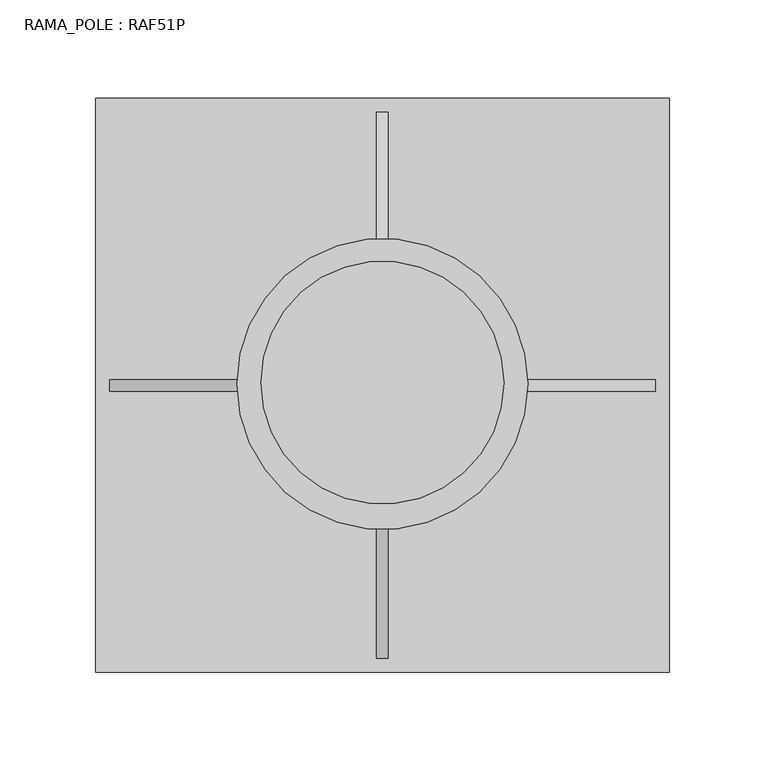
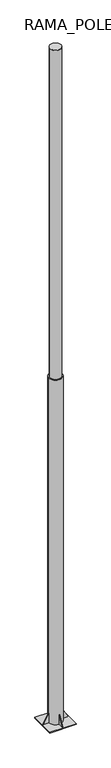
"""IFC4 building model written with IfcOpenShell, lengths in millimetres: light fixture geometry, RAMA_POLE : RAF51P."""

from ifc_helpers import new_model, si_unit, point, frame, origin, origin_2d, place, context, project, spatial, polyline, circle_curve, trimmed, segment, composite_curve, outline, extrude, source, transform, mapped, element, save


def rama_pole_raf51p_ffe0086f(model_context):
    return source(origin(), model_context, "Body", "SweptSolid", [
        extrude(outline(composite_curve([segment(trimmed(circle_curve(origin_2d(), 76.0), [point((-76.0, 0.0))], [point((76.0, 0.0))], False, "CARTESIAN"), True, "CONTINUOUS"), segment(trimmed(circle_curve(origin_2d(), 76.0), [point((76.0, 0.0))], [point((-76.0, 0.0))], False, "CARTESIAN"), True, "CONTINUOUS")], self_intersect=False)), frame((0.0, 0.0, -190.0), z_axis=(0.0, 0.0, 1.0), x_axis=(1.0, 0.0, 0.0)), (0.0, 0.0, 1.0), 4190.0),
        extrude(outline(polyline([(57.15, -40.0), (142.65, -190.0), (79.9181562, -190.0), (57.15, -150.0558663), (57.15, -40.0)])), frame((-3.0, 0.0, 0.0), z_axis=(1.0, 0.0, 0.0), x_axis=(0.0, 1.0, 0.0)), (0.0, 0.0, 1.0), 6.0),
        extrude(outline(polyline([(-57.15, -40.0), (-57.15, -150.0558663), (-79.9181562, -190.0), (-142.65, -190.0), (-57.15, -40.0)])), frame((-3.0, 0.0, 0.0), z_axis=(1.0, 0.0, 0.0), x_axis=(0.0, 1.0, 0.0)), (0.0, 0.0, 1.0), 6.0),
        extrude(outline(polyline([(-40.0, -57.15), (-190.0, -142.65), (-190.0, -79.9181562), (-150.0558663, -57.15), (-40.0, -57.15)])), frame((0.0, -3.0, 0.0), z_axis=(0.0, 1.0, 0.0), x_axis=(0.0, 0.0, 1.0)), (0.0, 0.0, 1.0), 6.0),
        extrude(outline(polyline([(-40.0, 57.15), (-150.0558663, 57.15), (-190.0, 79.9181562), (-190.0, 142.65), (-40.0, 57.15)])), frame((0.0, -3.0, 0.0), z_axis=(0.0, 1.0, 0.0), x_axis=(0.0, 0.0, 1.0)), (0.0, 0.0, 1.0), 6.0),
        extrude(outline(composite_curve([segment(trimmed(circle_curve(origin_2d(), 63.5), [point((-63.5, 0.0))], [point((63.5, 0.0))], False, "CARTESIAN"), True, "CONTINUOUS"), segment(trimmed(circle_curve(origin_2d(), 63.5), [point((63.5, 0.0))], [point((-63.5, 0.0))], False, "CARTESIAN"), True, "CONTINUOUS")], self_intersect=False)), frame((0.0, 0.0, -190.0), z_axis=(0.0, 0.0, 1.0), x_axis=(1.0, 0.0, 0.0)), (0.0, 0.0, 1.0), 8190.0),
        extrude(outline(polyline([(150.0, 150.0), (150.0, -150.0), (-150.0, -150.0), (-150.0, 150.0), (150.0, 150.0)])), frame((0.0, 0.0, -200.0), z_axis=(0.0, 0.0, 1.0), x_axis=(1.0, 0.0, 0.0)), (0.0, 0.0, 1.0), 10.0),
    ])


if __name__ == "__main__":
    model = new_model("IFC4")
    model_context = context("Model", 3, world=origin())
    ifc_project = project(units=[si_unit("LENGTHUNIT", "METRE", prefix="MILLI")], contexts=[model_context])
    site = spatial("IfcSite", under=ifc_project)
    building = spatial("IfcBuilding", under=site)
    placement = place(None, origin())
    rama_pole_raf51p_shape = rama_pole_raf51p_ffe0086f(model_context)
    element("IfcLightFixture", 1, ObjectType="RAMA_POLE : RAF51P", at=placement, inside=building, context=model_context, shape_type="MappedRepresentation", body=[
        mapped(rama_pole_raf51p_shape, transform((0.0, 0.0, 0.0), x_axis=(1.0, 0.0, 0.0), y_axis=(0.0, 1.0, 0.0), z_axis=(0.0, 0.0, 1.0))),
    ])
    save(model, "model.ifc")
